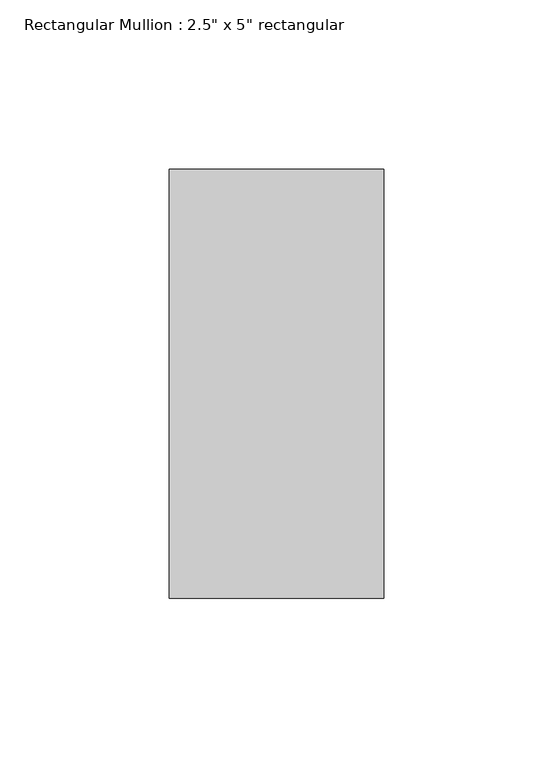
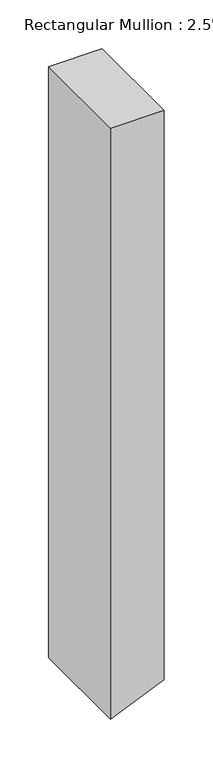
"""IFC4 building model written with IfcOpenShell, lengths in millimetres: member geometry."""

from ifc_helpers import new_model, si_unit, frame, origin, place, context, project, spatial, circle_curve, source, transform, mapped, element, save
from ifc_brep_helpers import plane_surface, cylinder_surface, advanced_brep


def member_cba936bb(model_context):
    return source(origin(), model_context, "Body", "AdvancedBrep", [
        advanced_brep(
        [(31.75, 63.5, 0.0), (-31.75, 63.5, 0.0), (-31.75, -63.5, 0.0), (31.75, -63.5, 0.0), (31.75, 63.5, -713.0255648), (-24.422947, 63.5, -736.9488464), (-31.75, 63.5, -739.9930403), (-31.75, -63.5, -739.9930403), (-24.422947, -63.5, -736.9488464), (31.75, -63.5, -713.0255648)],
        [
            (0, 1),
            (1, 2),
            (2, 3),
            (3, 0),
            (0, 4),
            (4, 5, circle_curve(frame((-1524.0, 63.5, 2862.0357141), z_axis=(0.0, 1.0, 0.0), x_axis=(0.6923076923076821, 0.0, -0.7216024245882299)), 3898.9)),
            (5, 6, circle_curve(frame((-1524.0, 63.5, 2862.0357141), z_axis=(0.0, 1.0, 0.0), x_axis=(0.3846153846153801, 0.0, -0.923076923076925)), 3898.9)),
            (6, 1),
            (6, 7),
            (7, 2),
            (7, 8, circle_curve(frame((-1524.0, -63.5, 2862.0357141), z_axis=(0.0, -1.0, 0.0), x_axis=(0.3846153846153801, 0.0, -0.923076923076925)), 3898.9)),
            (8, 9, circle_curve(frame((-1524.0, -63.5, 2862.0357141), z_axis=(0.0, -1.0, 0.0), x_axis=(0.6923076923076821, 0.0, -0.7216024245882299)), 3898.9)),
            (9, 3),
            (9, 4),
            (8, 5),
        ],
        [
            plane_surface(frame((0.0, -70.9951583, 0.0), z_axis=(0.0, 0.0, 1.0), x_axis=(-1.0, 0.0, 0.0))),
            plane_surface(frame((31.75, 63.5, 0.0), z_axis=(0.0, 1.0, 0.0), x_axis=(0.0, 0.0, -1.0))),
            plane_surface(frame((-31.75, 63.5, 0.0), z_axis=(-1.0, 0.0, 0.0), x_axis=(0.0, 0.0, -1.0))),
            plane_surface(frame((-31.75, -63.5, 0.0), z_axis=(0.0, -1.0, 0.0), x_axis=(0.0, 0.0, -1.0))),
            plane_surface(frame((31.75, -63.5, 0.0), z_axis=(1.0, 0.0, 0.0), x_axis=(0.0, 0.0, -1.0))),
            cylinder_surface(frame((-1524.0, 0.0, 2862.0357141), z_axis=(0.0, 1.0000000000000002, 0.0), x_axis=(0.6923076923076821, 0.0, -0.7216024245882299)), 3898.9),
            cylinder_surface(frame((-1524.0, 0.0, 2862.0357141), z_axis=(0.0, 1.0, 0.0), x_axis=(0.3846153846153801, 0.0, -0.923076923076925)), 3898.9),
        ],
        [
            (0, [[1, 2, 3, 4]]),
            (1, [[-1, 5, 6, 7, 8]]),
            (2, [[-2, -8, 9, 10]]),
            (3, [[-3, -10, 11, 12, 13]]),
            (4, [[-4, -13, 14, -5]]),
            (5, [[-14, -12, 15, -6]]),
            (6, [[-11, -9, -7, -15]]),
        ],
    ),
    ])


if __name__ == "__main__":
    model = new_model("IFC4")
    model_context = context("Model", 3, world=origin())
    ifc_project = project(units=[si_unit("LENGTHUNIT", "METRE", prefix="MILLI")], contexts=[model_context])
    site = spatial("IfcSite", under=ifc_project)
    building = spatial("IfcBuilding", under=site)
    placement = place(None, origin())
    member_shape = member_cba936bb(model_context)
    element("IfcMember", 1, ObjectType="Rectangular Mullion : 2.5\" x 5\" rectangular", at=placement, inside=building, context=model_context, shape_type="MappedRepresentation", body=[
        mapped(member_shape, transform((0.0, 0.0, 0.0), x_axis=(1.0, 0.0, 0.0), y_axis=(0.0, 1.0, 0.0), z_axis=(0.0, 0.0, 1.0))),
    ])
    save(model, "model.ifc")
